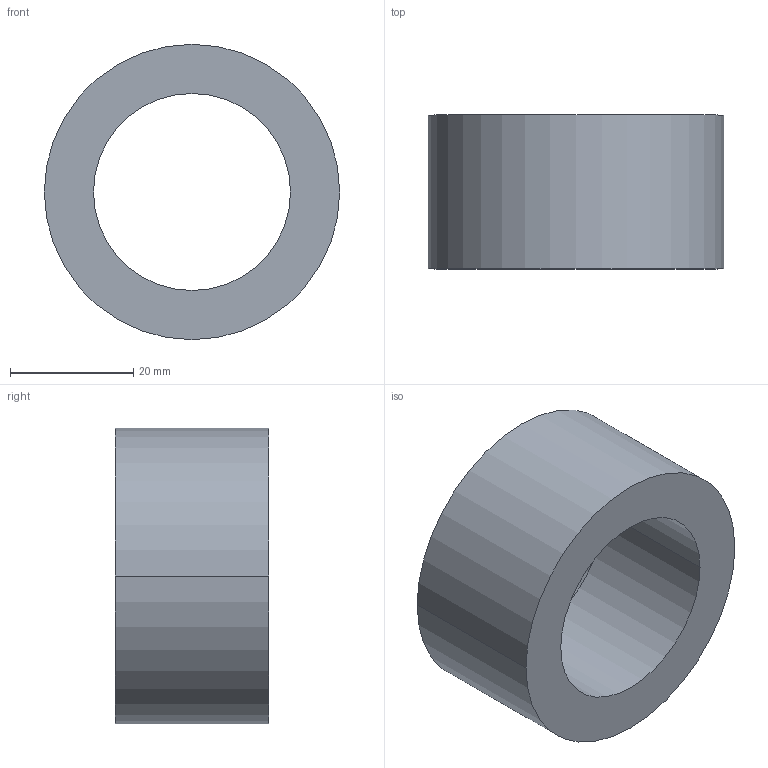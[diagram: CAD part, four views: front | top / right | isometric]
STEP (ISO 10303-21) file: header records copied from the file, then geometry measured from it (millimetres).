
FILE_DESCRIPTION (( 'STEP AP203' ), '1' );
FILE_NAME ('30800.WPP48J32.0.step', '2019-01-23T22:52:12', ( '' ), ( '' ), 'SwSTEP 2.0', 'SolidWorks 2017', '' );
FILE_SCHEMA (( 'CONFIG_CONTROL_DESIGN' ));
Length unit declared in the file: millimetre
Products named in the file (1): 30800.WPP48J32.0
Bounding box: 48 x 25 x 48 mm (x, y, z)
Volume: 24930.4 mm3; surface area: 8168.4 mm2
Topology: 1 solids, 1 shells, 8 faces, 16 edges, 10 vertices
Faces by surface type: cylinder 4, torus 2, plane 2
Entity records: 297 total; most frequent: DIRECTION 46, CARTESIAN_POINT 35, ORIENTED_EDGE 32, AXIS2_PLACEMENT_3D 21, EDGE_CURVE 16, CIRCLE 12, VERTEX_POINT 10, EDGE_LOOP 10
